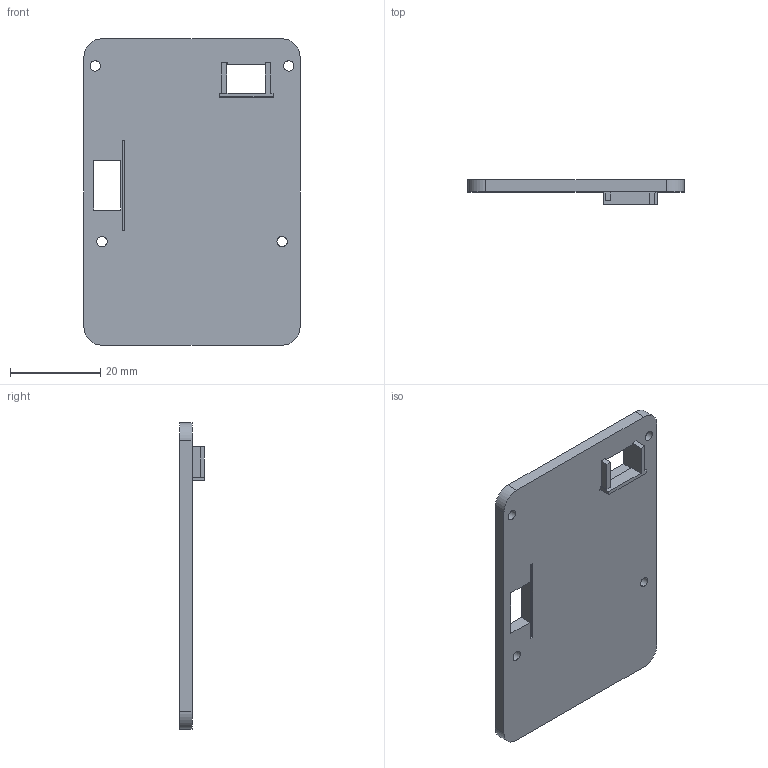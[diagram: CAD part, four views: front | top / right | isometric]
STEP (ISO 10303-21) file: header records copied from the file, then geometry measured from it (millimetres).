
FILE_DESCRIPTION(('FreeCAD Model'),'2;1');
FILE_NAME('Open CASCADE Shape Model','2026-11-17T15:22:43',('FreeCAD'),( 'FreeCAD'),'Open CASCADE STEP processor 7.8','FreeCAD','Unknown');
FILE_SCHEMA(('AUTOMOTIVE_DESIGN { 1 0 10303 214 1 1 1 1 }'));
Length unit declared in the file: millimetre
Products named in the file (1): Open CASCADE STEP translator 7.8 17
Bounding box: 48 x 5.5 x 68 mm (x, y, z)
Volume: 8559.5 mm3; surface area: 7338 mm2
Topology: 1 solids, 1 shells, 189 faces, 569 edges, 397 vertices
Faces by surface type: extrusion 123, plane 45, cylinder 13, bspline 8
Full cylindrical faces by diameter (mm): 2.3 x4, 4.2 x4
Entity records: 7135 total; most frequent: CARTESIAN_POINT 2487, ORIENTED_EDGE 1138, EDGE_CURVE 569, DIRECTION 563, B_SPLINE_CURVE_WITH_KNOTS 409, VERTEX_POINT 397, VECTOR 367, LINE 244
